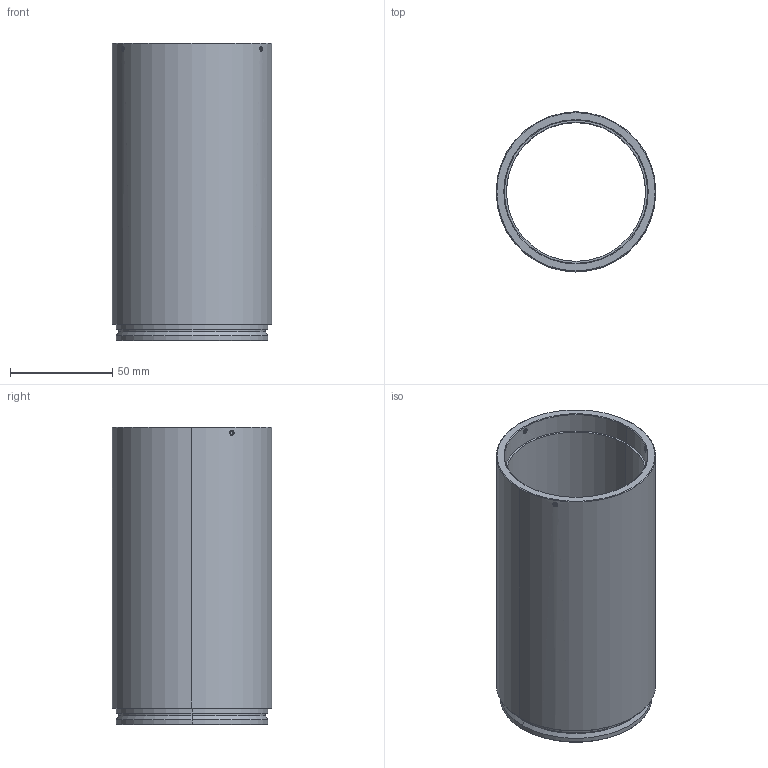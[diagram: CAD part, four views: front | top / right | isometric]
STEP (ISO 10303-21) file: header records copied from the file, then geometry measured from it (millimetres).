
FILE_DESCRIPTION (( 'STEP AP214' ), '1' );
FILE_NAME ('ML-12027-167-EXR-V70V74.STEP', '2026-02-25T01:36:13', ( '' ), ( '' ), 'SwSTEP 2.0', 'SolidWorks 2025', '' );
FILE_SCHEMA (( 'AUTOMOTIVE_DESIGN' ));
Length unit declared in the file: millimetre
Products named in the file (1): ML-12027-167-EXR-V70V74
Bounding box: 78 x 78 x 145.67 mm (x, y, z)
Volume: 160341.6 mm3; surface area: 69213.8 mm2
Topology: 1 solids, 1 shells, 110 faces, 274 edges, 175 vertices
Faces by surface type: cone 51, plane 32, cylinder 27
Entity records: 3559 total; most frequent: CARTESIAN_POINT 926, DIRECTION 548, ORIENTED_EDGE 536, EDGE_CURVE 268, AXIS2_PLACEMENT_3D 211, VERTEX_POINT 175, EDGE_LOOP 127, LINE 126
